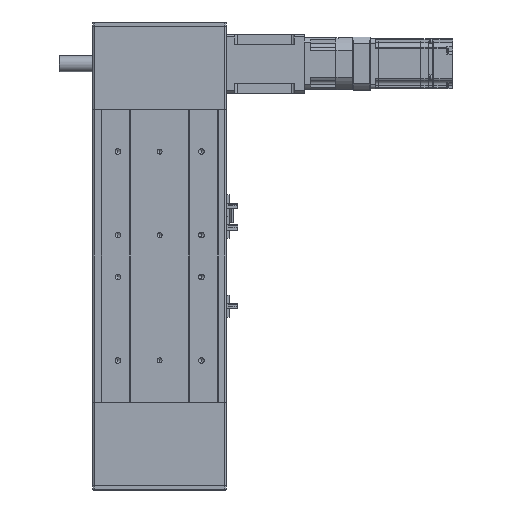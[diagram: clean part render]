
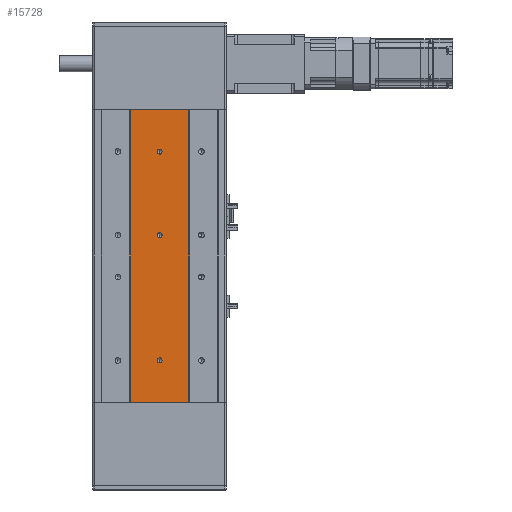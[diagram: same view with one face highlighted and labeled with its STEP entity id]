
A CAD part, front view. The second image highlights one B-rep face of the part: STEP entity #15728.
In plain terms, the highlighted planar face has unit normal (0, -1, 0).
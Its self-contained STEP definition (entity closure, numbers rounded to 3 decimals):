
#1017 = VERTEX_POINT ( 'NONE', #83807 ) ;
#1037 = VERTEX_POINT ( 'NONE', #83732 ) ;
#1047 = VERTEX_POINT ( 'NONE', #83816 ) ;
#1056 = VERTEX_POINT ( 'NONE', #83773 ) ;
#1089 = VERTEX_POINT ( 'NONE', #84015 ) ;
#1101 = VERTEX_POINT ( 'NONE', #84040 ) ;
#1312 = VERTEX_POINT ( 'NONE', #77360 ) ;
#1349 = VERTEX_POINT ( 'NONE', #77401 ) ;
#1354 = VERTEX_POINT ( 'NONE', #77403 ) ;
#1387 = VERTEX_POINT ( 'NONE', #77425 ) ;
#2037 = DIRECTION ( 'NONE',  ( 0., 1., 0. ) ) ;
#2038 = CARTESIAN_POINT ( 'NONE',  ( 0., -51., 125. ) ) ;
#2044 = DIRECTION ( 'NONE',  ( 0., 0., 1. ) ) ;
#2048 = DIRECTION ( 'NONE',  ( 0., 0., -1. ) ) ;
#2062 = CARTESIAN_POINT ( 'NONE',  ( 35., -51., 175. ) ) ;
#2071 = CARTESIAN_POINT ( 'NONE',  ( 0., -51., 25. ) ) ;
#2073 = DIRECTION ( 'NONE',  ( 0., 1., 0. ) ) ;
#2077 = CARTESIAN_POINT ( 'NONE',  ( 0., -51., -175. ) ) ;
#2078 = DIRECTION ( 'NONE',  ( 1., 0., 0. ) ) ;
#2079 = DIRECTION ( 'NONE',  ( 0., 0., 1. ) ) ;
#2084 = CARTESIAN_POINT ( 'NONE',  ( 0., -51., 175. ) ) ;
#2094 = DIRECTION ( 'NONE',  ( 0., 0., -1. ) ) ;
#2097 = CARTESIAN_POINT ( 'NONE',  ( -35., -51., 175. ) ) ;
#2099 = DIRECTION ( 'NONE',  ( 0., 1., 0. ) ) ;
#2100 = DIRECTION ( 'NONE',  ( 0., 0., 1. ) ) ;
#2104 = DIRECTION ( 'NONE',  ( 1., 0., 0. ) ) ;
#2105 = CARTESIAN_POINT ( 'NONE',  ( 0., -51., -125. ) ) ;
#4559 = CARTESIAN_POINT ( 'NONE',  ( 0., -51., 125. ) ) ;
#4570 = DIRECTION ( 'NONE',  ( 0., 0., 1. ) ) ;
#4573 = DIRECTION ( 'NONE',  ( 0., 1., 0. ) ) ;
#4621 = CARTESIAN_POINT ( 'NONE',  ( 0., -51., 25. ) ) ;
#4673 = DIRECTION ( 'NONE',  ( 0., 1., 0. ) ) ;
#4675 = DIRECTION ( 'NONE',  ( 0., 0., 1. ) ) ;
#4998 = CARTESIAN_POINT ( 'NONE',  ( 0., -51., -125. ) ) ;
#5018 = DIRECTION ( 'NONE',  ( 0., 0., 1. ) ) ;
#5085 = DIRECTION ( 'NONE',  ( 0., 1., 0. ) ) ;
#6625 = ORIENTED_EDGE ( 'NONE', *, *, #69426, .T. ) ;
#6627 = ORIENTED_EDGE ( 'NONE', *, *, #69833, .F. ) ;
#6628 = ORIENTED_EDGE ( 'NONE', *, *, #69843, .T. ) ;
#6639 = ORIENTED_EDGE ( 'NONE', *, *, #69460, .T. ) ;
#6647 = ORIENTED_EDGE ( 'NONE', *, *, #69844, .T. ) ;
#6651 = ORIENTED_EDGE ( 'NONE', *, *, #69845, .T. ) ;
#6667 = ORIENTED_EDGE ( 'NONE', *, *, #69829, .T. ) ;
#6670 = ORIENTED_EDGE ( 'NONE', *, *, #69827, .T. ) ;
#6673 = ORIENTED_EDGE ( 'NONE', *, *, #69590, .T. ) ;
#6695 = ORIENTED_EDGE ( 'NONE', *, *, #69818, .F. ) ;
#9451 = CIRCLE ( 'NONE', #22440, 3. ) ;
#9459 = VECTOR ( 'NONE', #2094, 1000. ) ;
#9561 = CIRCLE ( 'NONE', #22463, 3. ) ;
#9697 = LINE ( 'NONE', #2084, #9837 ) ;
#9837 = VECTOR ( 'NONE', #2104, 1000. ) ;
#9865 = CIRCLE ( 'NONE', #22408, 3. ) ;
#10245 = LINE ( 'NONE', #2077, #11417 ) ;
#10872 = LINE ( 'NONE', #2062, #11049 ) ;
#11001 = CIRCLE ( 'NONE', #22493, 3. ) ;
#11049 = VECTOR ( 'NONE', #2048, 1000. ) ;
#11417 = VECTOR ( 'NONE', #2078, 1000. ) ;
#11722 = CIRCLE ( 'NONE', #22521, 3. ) ;
#12055 = LINE ( 'NONE', #2097, #9459 ) ;
#12216 = CIRCLE ( 'NONE', #22485, 3. ) ;
#15728 = ADVANCED_FACE ( 'NONE', ( #71280, #71527, #71284, #71287 ), #25796, .F. ) ;
#22408 = AXIS2_PLACEMENT_3D ( 'NONE', #4998, #5085, #5018 ) ;
#22440 = AXIS2_PLACEMENT_3D ( 'NONE', #4559, #4573, #4570 ) ;
#22463 = AXIS2_PLACEMENT_3D ( 'NONE', #4621, #4673, #4675 ) ;
#22485 = AXIS2_PLACEMENT_3D ( 'NONE', #2038, #2073, #2079 ) ;
#22493 = AXIS2_PLACEMENT_3D ( 'NONE', #2105, #2099, #2100 ) ;
#22521 = AXIS2_PLACEMENT_3D ( 'NONE', #2071, #2037, #2044 ) ;
#25714 = DIRECTION ( 'NONE',  ( 0., 1., 0. ) ) ;
#25780 = CARTESIAN_POINT ( 'NONE',  ( 0., -51., 175. ) ) ;
#25796 = PLANE ( 'NONE',  #39320 ) ;
#25797 = DIRECTION ( 'NONE',  ( 0., 0., 1. ) ) ;
#39320 = AXIS2_PLACEMENT_3D ( 'NONE', #25780, #25714, #25797 ) ;
#69426 = EDGE_CURVE ( 'NONE', #1037, #1017, #9451, .T. ) ;
#69460 = EDGE_CURVE ( 'NONE', #1047, #1101, #9561, .T. ) ;
#69590 = EDGE_CURVE ( 'NONE', #1089, #1056, #9865, .T. ) ;
#69818 = EDGE_CURVE ( 'NONE', #1312, #1349, #10872, .T. ) ;
#69827 = EDGE_CURVE ( 'NONE', #1101, #1047, #11722, .T. ) ;
#69829 = EDGE_CURVE ( 'NONE', #1017, #1037, #12216, .T. ) ;
#69833 = EDGE_CURVE ( 'NONE', #1354, #1312, #9697, .T. ) ;
#69843 = EDGE_CURVE ( 'NONE', #1354, #1387, #12055, .T. ) ;
#69844 = EDGE_CURVE ( 'NONE', #1056, #1089, #11001, .T. ) ;
#69845 = EDGE_CURVE ( 'NONE', #1387, #1349, #10245, .T. ) ;
#71280 = FACE_BOUND ( 'NONE', #80547, .T. ) ;
#71284 = FACE_BOUND ( 'NONE', #80493, .T. ) ;
#71287 = FACE_OUTER_BOUND ( 'NONE', #80402, .T. ) ;
#71527 = FACE_BOUND ( 'NONE', #80426, .T. ) ;
#77360 = CARTESIAN_POINT ( 'NONE',  ( 35., -51., 175. ) ) ;
#77401 = CARTESIAN_POINT ( 'NONE',  ( 35., -51., -175. ) ) ;
#77403 = CARTESIAN_POINT ( 'NONE',  ( -35., -51., 175. ) ) ;
#77425 = CARTESIAN_POINT ( 'NONE',  ( -35., -51., -175. ) ) ;
#80402 = EDGE_LOOP ( 'NONE', ( #6651, #6695, #6627, #6628 ) ) ;
#80426 = EDGE_LOOP ( 'NONE', ( #6639, #6670 ) ) ;
#80493 = EDGE_LOOP ( 'NONE', ( #6673, #6647 ) ) ;
#80547 = EDGE_LOOP ( 'NONE', ( #6625, #6667 ) ) ;
#83732 = CARTESIAN_POINT ( 'NONE',  ( 0., -51., 122. ) ) ;
#83773 = CARTESIAN_POINT ( 'NONE',  ( 0., -51., -122. ) ) ;
#83807 = CARTESIAN_POINT ( 'NONE',  ( 0., -51., 128. ) ) ;
#83816 = CARTESIAN_POINT ( 'NONE',  ( 0., -51., 22. ) ) ;
#84015 = CARTESIAN_POINT ( 'NONE',  ( 0., -51., -128. ) ) ;
#84040 = CARTESIAN_POINT ( 'NONE',  ( 0., -51., 28. ) ) ;
